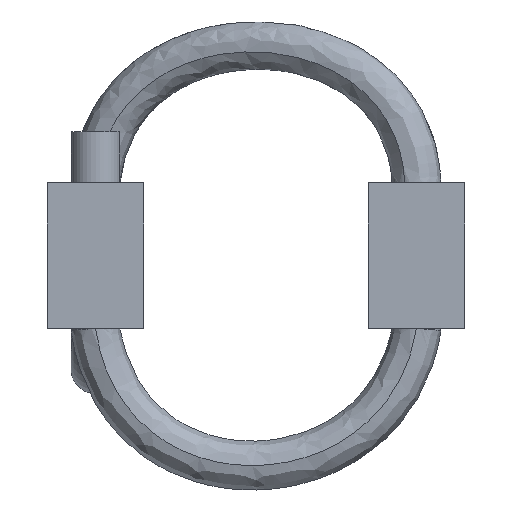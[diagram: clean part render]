
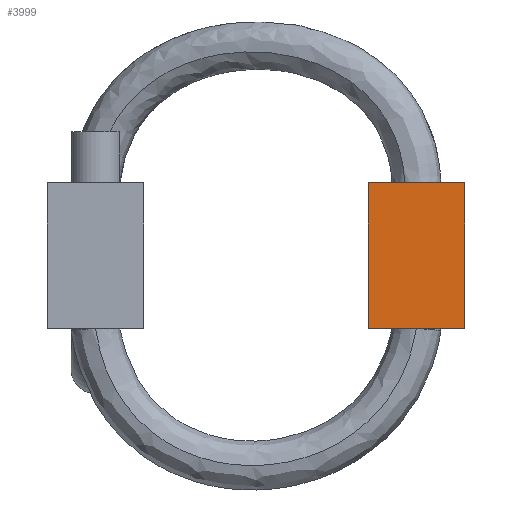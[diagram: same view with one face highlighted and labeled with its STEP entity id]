
A CAD part, left-side view. The second image highlights one B-rep face of the part: STEP entity #3999.
In plain terms, the highlighted planar face has unit normal (-1, 0, 0).
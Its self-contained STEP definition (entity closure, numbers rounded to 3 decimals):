
#1260 = VECTOR ( 'NONE', #16510, 1000. ) ;
#2684 = VECTOR ( 'NONE', #2843, 1000. ) ;
#2833 = DIRECTION ( 'NONE',  ( 0., 1., 0. ) ) ;
#2843 = DIRECTION ( 'NONE',  ( 0., 0., -1. ) ) ;
#3783 = ORIENTED_EDGE ( 'NONE', *, *, #22222, .T. ) ;
#3819 = LINE ( 'NONE', #13457, #13430 ) ;
#3999 = ADVANCED_FACE ( 'NONE', ( #22858 ), #21041, .T. ) ;
#4491 = DIRECTION ( 'NONE',  ( 0., 0., 1. ) ) ;
#6194 = VERTEX_POINT ( 'NONE', #16708 ) ;
#6403 = CARTESIAN_POINT ( 'NONE',  ( -63.5, -11., -7.15 ) ) ;
#6496 = EDGE_CURVE ( 'NONE', #20945, #6194, #19755, .T. ) ;
#6706 = DIRECTION ( 'NONE',  ( -1., 0., 0. ) ) ;
#6775 = ORIENTED_EDGE ( 'NONE', *, *, #20935, .T. ) ;
#7481 = LINE ( 'NONE', #6403, #2684 ) ;
#10995 = VERTEX_POINT ( 'NONE', #12374 ) ;
#11222 = EDGE_LOOP ( 'NONE', ( #13637, #3783, #19621, #6775 ) ) ;
#12374 = CARTESIAN_POINT ( 'NONE',  ( -63.5, -20.5, -7.15 ) ) ;
#12445 = CARTESIAN_POINT ( 'NONE',  ( -63.5, -11., -7.15 ) ) ;
#12524 = LINE ( 'NONE', #20199, #1260 ) ;
#13430 = VECTOR ( 'NONE', #4491, 1000. ) ;
#13457 = CARTESIAN_POINT ( 'NONE',  ( -63.5, -20.5, -7.15 ) ) ;
#13637 = ORIENTED_EDGE ( 'NONE', *, *, #6496, .T. ) ;
#14920 = VECTOR ( 'NONE', #2833, 1000. ) ;
#15464 = CARTESIAN_POINT ( 'NONE',  ( -63.5, -20.5, 7.15 ) ) ;
#16510 = DIRECTION ( 'NONE',  ( 0., -1., 0. ) ) ;
#16708 = CARTESIAN_POINT ( 'NONE',  ( -63.5, -11., 7.15 ) ) ;
#19355 = DIRECTION ( 'NONE',  ( 0., 0., 1. ) ) ;
#19621 = ORIENTED_EDGE ( 'NONE', *, *, #22939, .T. ) ;
#19755 = LINE ( 'NONE', #15464, #14920 ) ;
#20199 = CARTESIAN_POINT ( 'NONE',  ( -63.5, -20.5, -7.15 ) ) ;
#20780 = CARTESIAN_POINT ( 'NONE',  ( -63.5, -20.5, 7.15 ) ) ;
#20935 = EDGE_CURVE ( 'NONE', #10995, #20945, #3819, .T. ) ;
#20945 = VERTEX_POINT ( 'NONE', #20780 ) ;
#21041 = PLANE ( 'NONE',  #22241 ) ;
#21118 = CARTESIAN_POINT ( 'NONE',  ( -63.5, -15.75, 0. ) ) ;
#21470 = VERTEX_POINT ( 'NONE', #12445 ) ;
#22222 = EDGE_CURVE ( 'NONE', #6194, #21470, #7481, .T. ) ;
#22241 = AXIS2_PLACEMENT_3D ( 'NONE', #21118, #6706, #19355 ) ;
#22858 = FACE_OUTER_BOUND ( 'NONE', #11222, .T. ) ;
#22939 = EDGE_CURVE ( 'NONE', #21470, #10995, #12524, .T. ) ;
